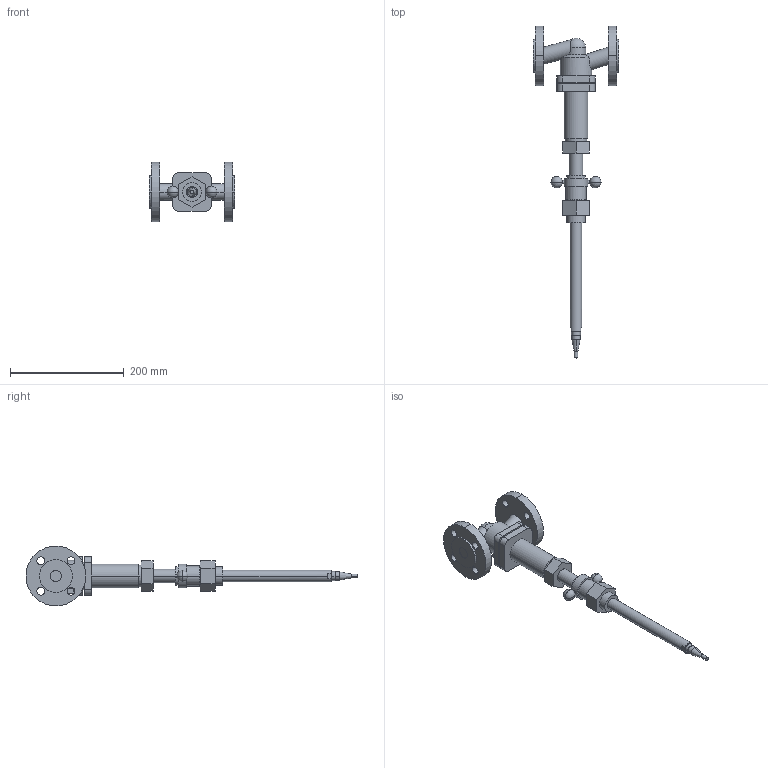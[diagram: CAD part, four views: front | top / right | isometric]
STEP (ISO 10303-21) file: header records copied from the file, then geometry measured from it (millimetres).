
FILE_DESCRIPTION(('CoCreate Modeling STEP Export'),'2;1');
FILE_NAME('c000001237.stp','2011-09-21T 9:18:54',(''),(''),'CoCreate Modeling STEP processor for AP214 (Solid Model)','CoCreate Modeling 17.0 01-Apr-2010 (C) Parametric Technology GmbH','');
FILE_SCHEMA(('AUTOMOTIVE_DESIGN { 1 0 10303 214 1 1 1 1 }'));
Length unit declared in the file: millimetre
Products named in the file (1): 1
Bounding box: 150 x 583.05 x 105 mm (x, y, z)
Volume: 887701 mm3; surface area: 131491.7 mm2
Topology: 1 solids, 1 shells, 152 faces, 380 edges, 245 vertices
Faces by surface type: cylinder 74, plane 64, sphere 10, cone 4
Entity records: 7220 total; most frequent: CARTESIAN_POINT 2667, ORIENTED_EDGE 740, DIRECTION 601, EDGE_CURVE 370, VERTEX_POINT 245, AXIS2_PLACEMENT_3D 212, EDGE_LOOP 193, VECTOR 177
